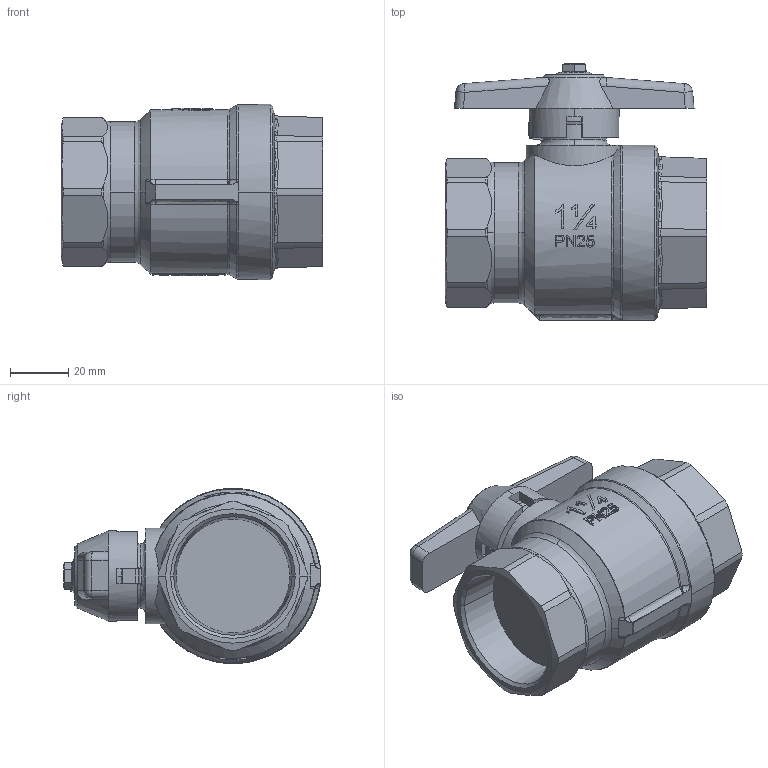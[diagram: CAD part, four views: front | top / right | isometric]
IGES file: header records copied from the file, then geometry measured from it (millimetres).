
Global section: file name: No Iges File Name specified; native system: AutoDesk Inventor R12.0; preprocessor: AutoDesk Inventor Iges Exporter R12.0; date: 20110214.164821; units: millimetre
Bounding box: 89.63 x 88 x 60 mm (x, y, z)
Volume: 191984.1 mm3; surface area: 29683.2 mm2
Topology: 1 solids, 5 shells, 497 faces, 1285 edges, 821 vertices
Faces by surface type: plane 198, bspline 164, cylinder 59, cone 32, revolution 24, torus 16, sphere 4
Full cylindrical faces by diameter (mm): 32.798 x1
